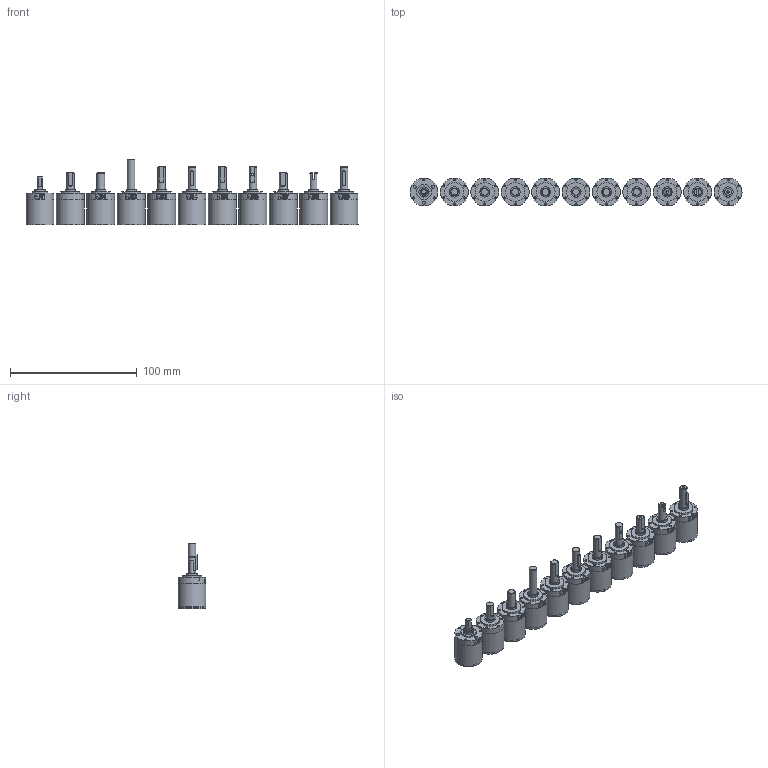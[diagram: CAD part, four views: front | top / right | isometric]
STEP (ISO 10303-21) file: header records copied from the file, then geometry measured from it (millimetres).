
FILE_DESCRIPTION(/* description */ (''),/* implementation_level */ '2;1');
FILE_NAME(/* name */ '22gpt-2stage_standard+KSx+KRx.stp',/* time_stamp */ '2023-02-02T07:51:41+01:00',/* author */ ('DR. FRITZ FAULHABER GmbH & Co. KG'),/* organization */ ('DR. FRITZ FAULHABER GmbH & Co. KG'),/* preprocessor_version */ 'ST-DEVELOPER v16.7',/* originating_system */ 'SIEMENS PLM Software NX 1919',/* authorisation */ '');
FILE_SCHEMA (('AUTOMOTIVE_DESIGN { 1 0 10303 214 3 1 1 1 }'));
Length unit declared in the file: millimetre
Products named in the file (1): H99999998-A-Alle Getriebe
Bounding box: 262 x 22 x 51.5 mm (x, y, z)
Volume: 101087.3 mm3; surface area: 35400.1 mm2
Topology: 11 solids, 11 shells, 683 faces, 1384 edges, 927 vertices
Faces by surface type: plane 320, cylinder 220, bspline 127, cone 16
Full cylindrical faces by diameter (mm): 1.6 x63, 2 x1, 2.05 x2, 2.5 x3, 4 x1, 6 x10, 8 x11, 10.068 x11, 12 x12, 15 x10, 20.8 x11, 21 x11, 21.999 x11, 22 x22
Entity records: 32689 total; most frequent: CARTESIAN_POINT 18759, ORIENTED_EDGE 2332, DIRECTION 2183, EDGE_CURVE 1166, EDGE_LOOP 1079, AXIS2_PLACEMENT_3D 1006, VERTEX_POINT 901, FACE_BOUND 696
